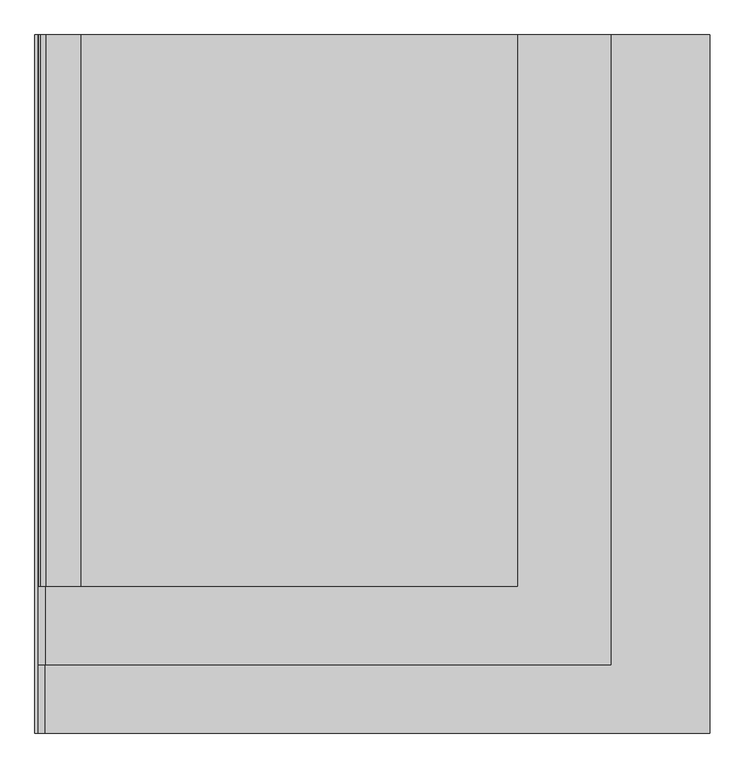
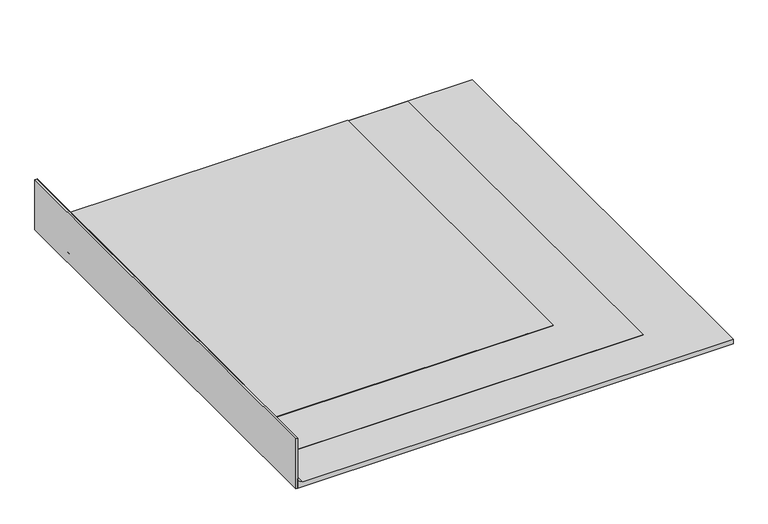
"""IFC4 building model written with IfcOpenShell, lengths in millimetres: proxy geometry, IMPER:IMPER:433934 : IMPER:IMPER:433934."""

from ifc_helpers import new_model, si_unit, point, frame, frame_2d, origin, place, context, project, spatial, polyline, circle_curve, trimmed, segment, composite_curve, outline, extrude, source, transform, mapped, element, save


def generic_models_7a53365d(model_context):
    return source(origin(), model_context, "Body", "SweptSolid", [
        extrude(outline(polyline([(-351.9704105, 145.8700195), (-341.9704105, 145.8700195), (-341.9704105, -2514.1299805), (-351.9704105, -2514.1299805), (-351.9704105, 145.8700195)])), frame((0.0, 0.0, -2.523798), z_axis=(0.0, 0.0, 1.0), x_axis=(1.0, 0.0, 0.0)), (0.0, 0.0, 1.0), 310.0),
        extrude(outline(polyline([(297.476202, -336.9591004), (287.476202, -336.9591004), (287.476202, -331.9591004), (297.476202, -331.9591004), (307.476202, -336.9591004), (307.476202, -341.9704105), (297.476202, -341.9704105), (297.476202, -336.9591004)])), frame((0.0, -1954.1299805, 0.0), z_axis=(0.0, 1.0, 0.0), x_axis=(0.0, 0.0, 1.0)), (0.0, 0.0, 1.0), 2100.0),
        extrude(outline(composite_curve([segment(polyline([(-311.9704105, 27.476202), (2221.8598581, 27.476202), (2221.8598581, -2.523798), (-341.9704105, -2.523798), (-341.9704105, 57.476202)]), True, "CONTINUOUS"), segment(trimmed(circle_curve(frame_2d((-311.9704105, 57.476202)), 30.0), [point((-341.9704105, 57.476202))], [point((-311.9704105, 27.476202))], True, "CARTESIAN"), True, "CONTINUOUS")], self_intersect=False)), frame((0.0, 145.8700195, 0.0), z_axis=(0.0, -1.0, 0.0), x_axis=(1.0, 0.0, 0.0)), (0.0, 0.0, 1.0), 2660.0),
        extrude(outline(composite_curve([segment(polyline([(56.6663512, -340.9591004), (297.476202, -340.9591004), (297.476202, -341.9704105), (57.476202, -341.9704105)]), True, "CONTINUOUS"), segment(trimmed(circle_curve(frame_2d((57.476202, -311.9704105)), 30.0), [point((57.476202, -341.9704105))], [point((27.476202, -311.9704105))], False, "CARTESIAN"), True, "CONTINUOUS"), segment(polyline([(27.476202, -311.9704105), (27.476202, 1843.8528814), (28.5018705, 1843.8528814), (28.5018705, -313.1902924)]), True, "CONTINUOUS"), segment(trimmed(circle_curve(frame_2d((57.476202, -311.9704105)), 29.0), [point((28.5018705, -313.1902924))], [point((56.6663512, -340.9591004))], True, "CARTESIAN"), True, "CONTINUOUS")], self_intersect=False)), frame((0.0, -2254.1299805, 0.0), z_axis=(0.0, 1.0, 0.0), x_axis=(0.0, 0.0, 1.0)), (0.0, 0.0, 1.0), 2400.0),
        extrude(outline(composite_curve([segment(polyline([(297.476202, -336.9591004), (297.476202, -340.9591004), (170.8079879, -340.9591004)]), True, "CONTINUOUS"), segment(trimmed(circle_curve(frame_2d((170.8079879, -331.9879323)), 8.9711681), [point((170.8079879, -340.9591004))], [point((163.2638031, -336.8425314))], False, "CARTESIAN"), True, "CONTINUOUS"), segment(trimmed(circle_curve(frame_2d((162.3497254, -337.1120978)), 0.9529974), [point((163.2638031, -336.8425314))], [point((162.3497254, -336.1591004))], True, "CARTESIAN"), True, "CONTINUOUS"), segment(polyline([(162.3497254, -336.1591004), (56.7364174, -336.1591004)]), True, "CONTINUOUS"), segment(trimmed(circle_curve(frame_2d((57.476202, -311.9704105)), 24.2), [point((56.7364174, -336.1591004))], [point((33.3018705, -313.084724))], False, "CARTESIAN"), True, "CONTINUOUS"), segment(polyline([(33.3018705, -313.084724), (33.3018705, -176.9591004), (37.3018705, -176.9591004), (37.3018705, -310.9523993)]), True, "CONTINUOUS"), segment(trimmed(circle_curve(frame_2d((57.476202, -311.9704105)), 20.2), [point((37.3018705, -310.9523993))], [point((56.8003319, -332.1591004))], True, "CARTESIAN"), True, "CONTINUOUS"), segment(polyline([(56.8003319, -332.1591004), (162.3497254, -332.1591004)]), True, "CONTINUOUS"), segment(trimmed(circle_curve(frame_2d((162.3497254, -337.1120978)), 4.9529974), [point((162.3497254, -332.1591004))], [point((166.355889, -334.1995668))], False, "CARTESIAN"), True, "CONTINUOUS"), segment(trimmed(circle_curve(frame_2d((170.8079879, -331.9879323)), 4.9711681), [point((166.355889, -334.1995668))], [point((170.8079879, -336.9591004))], True, "CARTESIAN"), True, "CONTINUOUS"), segment(polyline([(170.8079879, -336.9591004), (297.476202, -336.9591004)]), True, "CONTINUOUS")], self_intersect=False)), frame((0.0, -1954.1299805, 0.0), z_axis=(0.0, 1.0, 0.0), x_axis=(0.0, 0.0, 1.0)), (0.0, 0.0, 1.0), 2100.0),
        extrude(outline(composite_curve([segment(polyline([(56.7242861, -336.9591004), (162.5018705, -336.9591004), (166.5018705, -340.9591004), (56.6663512, -340.9591004)]), True, "CONTINUOUS"), segment(trimmed(circle_curve(frame_2d((57.476202, -311.9704105)), 29.0), [point((56.6663512, -340.9591004))], [point((28.5018705, -313.1902924))], False, "CARTESIAN"), True, "CONTINUOUS"), segment(polyline([(28.5018705, -313.1902924), (28.5018705, 1488.0295895), (32.5018705, 1488.0295895), (32.5018705, -313.1030023)]), True, "CONTINUOUS"), segment(trimmed(circle_curve(frame_2d((57.476202, -311.9704105)), 25.0), [point((32.5018705, -313.1030023))], [point((56.7242861, -336.9591004))], True, "CARTESIAN"), True, "CONTINUOUS")], self_intersect=False)), frame((0.0, -1954.1299805, 0.0), z_axis=(0.0, 1.0, 0.0), x_axis=(0.0, 0.0, 1.0)), (0.0, 0.0, 1.0), 2100.0),
    ])


if __name__ == "__main__":
    model = new_model("IFC4")
    model_context = context("Model", 3, world=origin())
    ifc_project = project(units=[si_unit("LENGTHUNIT", "METRE", prefix="MILLI")], contexts=[model_context])
    site = spatial("IfcSite", under=ifc_project)
    building = spatial("IfcBuilding", under=site)
    placement = place(None, origin())
    generic_models_shape = generic_models_7a53365d(model_context)
    element("IfcBuildingElementProxy", 1, Name="IMPER:IMPER:433934 : IMPER:IMPER:433934", ObjectType="IMPER:IMPER:433934 : IMPER:IMPER:433934", at=placement, inside=building, context=model_context, shape_type="MappedRepresentation", body=[
        mapped(generic_models_shape, transform((0.0, 0.0, 0.0), x_axis=(1.0, 0.0, 0.0), y_axis=(0.0, 1.0, 0.0), z_axis=(0.0, 0.0, 1.0))),
    ])
    save(model, "model.ifc")
